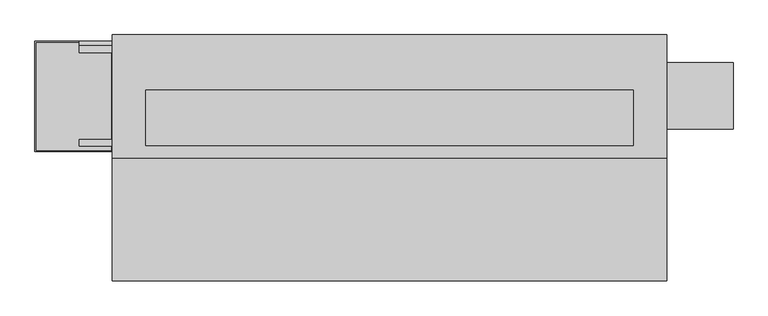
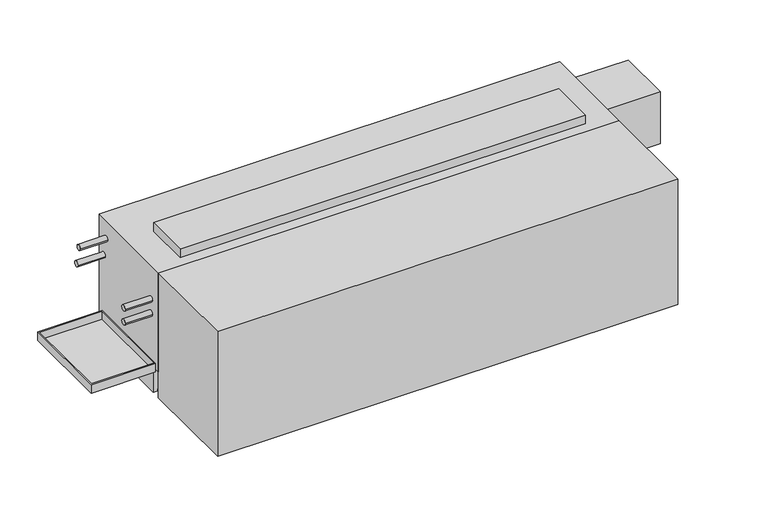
"""IFC4 building model written with IfcOpenShell, lengths in millimetres: proxy geometry, Concealed_Vertical_Low_Boy_Fan_Coil_Unit Fan_-_LHA_-_IEC_-_4-Pipe_LH_2022 : Size 06 - 277v/60Hz/1Ph - 2/1 Coil."""

from ifc_helpers import new_model, si_unit, point, frame, frame_2d, origin, origin_with_axes, place, context, project, spatial, polyline, circle_curve, trimmed, segment, composite_curve, outline, extrude, faceted_brep, source, transform, mapped, element, save


def mechanical_equipment_23ea3b5d(model_context):
    return source(origin(), model_context, "Body", "SolidModel", [
        faceted_brep([(152.4, -252.4125, 92.075), (-25.4, -252.4125, 92.075), (-25.4, -506.4125, 92.075), (152.4, -506.4125, 92.075), (-22.225, -255.5875, 92.075), (149.225, -255.5875, 92.075), (149.225, -503.2375, 92.075), (-22.225, -503.2375, 92.075), (152.4, -252.4125, 66.675), (152.4, -506.4125, 66.675), (-25.4, -506.4125, 66.675), (-25.4, -252.4125, 66.675), (149.225, -255.5875, 69.8497888), (-22.225, -255.5875, 69.8497888), (-22.225, -503.2375, 69.8497888), (149.225, -503.2375, 69.8497888)], [[[0, 1, 2, 3], [4, 5, 6, 7]], [[8, 9, 10, 11]], [[1, 0, 8, 11]], [[2, 1, 11, 10]], [[3, 2, 10, 9]], [[0, 3, 9, 8]], [[12, 13, 14, 15]], [[13, 12, 5, 4]], [[14, 13, 4, 7]], [[15, 14, 7, 6]], [[12, 15, 6, 5]]]),
        extrude(outline(composite_curve([segment(trimmed(circle_curve(frame_2d((63.5, -379.4125)), 9.525), [point((53.975, -379.4125))], [point((73.025, -379.4125))], False, "CARTESIAN"), True, "CONTINUOUS"), segment(trimmed(circle_curve(frame_2d((63.5, -379.4125)), 9.525), [point((73.025, -379.4125))], [point((53.975, -379.4125))], False, "CARTESIAN"), True, "CONTINUOUS")], self_intersect=False)), frame((0.0, 0.0, 41.275), z_axis=(0.0, 0.0, 1.0), x_axis=(1.0, 0.0, 0.0)), (0.0, 0.0, 1.0), 25.4),
        extrude(outline(polyline([(222.6730703, 1306.5868862), (212.725, 1338.7602728), (354.8959244, 1338.7602728), (331.8739183, 1306.5868862), (222.6730703, 1306.5868862)])), frame((0.0, -523.875, 0.0), z_axis=(0.0, 1.0, 0.0), x_axis=(0.0, 0.0, 1.0)), (0.0, 0.0, 1.0), 3.175),
        extrude(outline(polyline([(301.6723557, 1345.5186058), (298.4699632, 1371.6), (327.6988042, 1371.6), (335.7632193, 1345.5186058), (301.6723557, 1345.5186058)])), frame((0.0, -523.875, 0.0), z_axis=(0.0, 1.0, 0.0), x_axis=(0.0, 0.0, 1.0)), (0.0, 0.0, 1.0), 3.175),
        extrude(outline(polyline([(249.8088288, 1371.6), (246.1433279, 1345.5186058), (212.725, 1345.5186058), (221.3592372, 1371.6), (249.8088288, 1371.6)])), frame((0.0, -523.875, 0.0), z_axis=(0.0, 1.0, 0.0), x_axis=(0.0, 0.0, 1.0)), (0.0, 0.0, 1.0), 3.175),
        extrude(outline(polyline([(289.1239903, 1371.6), (291.4058166, 1345.5186058), (255.4682681, 1345.5186058), (258.2095331, 1371.6), (289.1239903, 1371.6)])), frame((0.0, -523.875, 0.0), z_axis=(0.0, 1.0, 0.0), x_axis=(0.0, 0.0, 1.0)), (0.0, 0.0, 1.0), 3.175),
        extrude(outline(polyline([(1346.2, -365.125), (1346.2, -492.125), (228.6, -492.125), (228.6, -365.125), (1346.2, -365.125)])), frame((0.0, 0.0, 365.125), z_axis=(0.0, 0.0, 1.0), x_axis=(1.0, 0.0, 0.0)), (0.0, 0.0, 1.0), 25.4),
        extrude(outline(polyline([(1422.4, -520.7), (152.4, -520.7), (152.4, -238.125), (1422.4, -238.125), (1422.4, -520.7)])), frame((0.0, 0.0, 76.2), z_axis=(0.0, 0.0, 1.0), x_axis=(1.0, 0.0, 0.0)), (0.0, 0.0, 1.0), 288.925),
        extrude(outline(polyline([(1409.7, -495.3), (165.1, -495.3), (165.1, -244.475), (1409.7, -244.475), (1409.7, -495.3)])), origin_with_axes(), (0.0, 0.0, 1.0), 6.35),
        extrude(outline(polyline([(1409.7, -238.125), (1409.7, -244.475), (165.1, -244.475), (165.1, -238.125), (1409.7, -238.125)])), origin_with_axes(), (0.0, 0.0, 1.0), 76.2),
        extrude(outline(polyline([(1422.4, -238.125), (1422.4, -495.3), (1409.7, -495.3), (1409.7, -238.125), (1422.4, -238.125)])), origin_with_axes(), (0.0, 0.0, 1.0), 76.2),
        extrude(outline(polyline([(165.1, -238.125), (165.1, -495.3), (152.4, -495.3), (152.4, -238.125), (165.1, -238.125)])), origin_with_axes(), (0.0, 0.0, 1.0), 76.2),
        extrude(outline(composite_curve([segment(trimmed(circle_curve(frame_2d((-271.4625, 314.325)), 7.9375), [point((-263.525, 314.325))], [point((-279.4, 314.325))], False, "CARTESIAN"), True, "CONTINUOUS"), segment(trimmed(circle_curve(frame_2d((-271.4625, 314.325)), 7.9375), [point((-279.4, 314.325))], [point((-263.525, 314.325))], False, "CARTESIAN"), True, "CONTINUOUS")], self_intersect=False)), frame((76.2, 0.0, 0.0), z_axis=(1.0, 0.0, 0.0), x_axis=(0.0, 1.0, 0.0)), (0.0, 0.0, 1.0), 76.2),
        extrude(outline(composite_curve([segment(trimmed(circle_curve(frame_2d((-260.35, 260.35)), 7.9375), [point((-252.4125, 260.35))], [point((-268.2875, 260.35))], False, "CARTESIAN"), True, "CONTINUOUS"), segment(trimmed(circle_curve(frame_2d((-260.35, 260.35)), 7.9375), [point((-268.2875, 260.35))], [point((-252.4125, 260.35))], False, "CARTESIAN"), True, "CONTINUOUS")], self_intersect=False)), frame((76.2, 0.0, 0.0), z_axis=(1.0, 0.0, 0.0), x_axis=(0.0, 1.0, 0.0)), (0.0, 0.0, 1.0), 76.2),
        extrude(outline(composite_curve([segment(trimmed(circle_curve(frame_2d((-485.775, 227.0125)), 7.9375), [point((-477.8375, 227.0125))], [point((-493.7125, 227.0125))], False, "CARTESIAN"), True, "CONTINUOUS"), segment(trimmed(circle_curve(frame_2d((-485.775, 227.0125)), 7.9375), [point((-493.7125, 227.0125))], [point((-477.8375, 227.0125))], False, "CARTESIAN"), True, "CONTINUOUS")], self_intersect=False)), frame((76.2, 0.0, 0.0), z_axis=(1.0, 0.0, 0.0), x_axis=(0.0, 1.0, 0.0)), (0.0, 0.0, 1.0), 76.2),
        extrude(outline(composite_curve([segment(trimmed(circle_curve(frame_2d((-485.775, 268.2875)), 7.9375), [point((-477.8375, 268.2875))], [point((-493.7125, 268.2875))], False, "CARTESIAN"), True, "CONTINUOUS"), segment(trimmed(circle_curve(frame_2d((-485.775, 268.2875)), 7.9375), [point((-493.7125, 268.2875))], [point((-477.8375, 268.2875))], False, "CARTESIAN"), True, "CONTINUOUS")], self_intersect=False)), frame((76.2, 0.0, 0.0), z_axis=(1.0, 0.0, 0.0), x_axis=(0.0, 1.0, 0.0)), (0.0, 0.0, 1.0), 76.2),
        extrude(outline(polyline([(1422.4, -301.625), (1574.8, -301.625), (1574.8, -454.025), (1422.4, -454.025), (1422.4, -301.625)])), frame((0.0, 0.0, 203.5632719), z_axis=(0.0, 0.0, 1.0), x_axis=(1.0, 0.0, 0.0)), (0.0, 0.0, 1.0), 152.0367281),
        extrude(outline(polyline([(1422.4, -803.275), (152.4, -803.275), (152.4, -520.7), (1422.4, -520.7), (1422.4, -803.275)])), origin_with_axes(), (0.0, 0.0, 1.0), 365.125),
    ])


if __name__ == "__main__":
    model = new_model("IFC4")
    model_context = context("Model", 3, world=origin())
    ifc_project = project(units=[si_unit("LENGTHUNIT", "METRE", prefix="MILLI")], contexts=[model_context])
    site = spatial("IfcSite", under=ifc_project)
    building = spatial("IfcBuilding", under=site)
    placement = place(None, origin())
    mechanical_equipment_shape = mechanical_equipment_23ea3b5d(model_context)
    element("IfcBuildingElementProxy", 1, Name="Concealed_Vertical_Low_Boy_Fan_Coil_Unit Fan_-_LHA_-_IEC_-_4-Pipe_LH_2022 : Size 06 - 277v/60Hz/1Ph - 2/1 Coil", ObjectType="Concealed_Vertical_Low_Boy_Fan_Coil_Unit Fan_-_LHA_-_IEC_-_4-Pipe_LH_2022 : Size 06 - 277v/60Hz/1Ph - 2/1 Coil", at=placement, inside=building, context=model_context, shape_type="MappedRepresentation", body=[
        mapped(mechanical_equipment_shape, transform((0.0, 0.0, 0.0), x_axis=(1.0, 0.0, 0.0), y_axis=(0.0, 1.0, 0.0), z_axis=(0.0, 0.0, 1.0))),
    ])
    save(model, "model.ifc")
